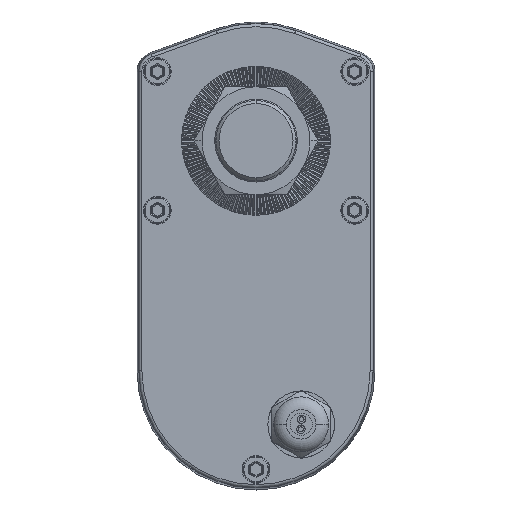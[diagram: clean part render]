
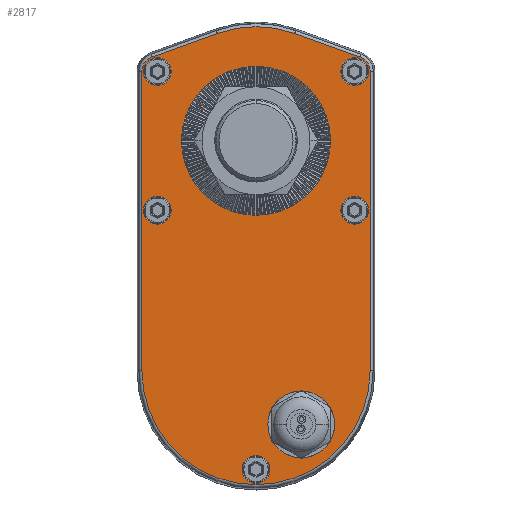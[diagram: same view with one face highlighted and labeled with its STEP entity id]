
A CAD part, top view. The second image highlights one B-rep face of the part: STEP entity #2817.
In plain terms, the highlighted planar face has unit normal (0, 0, 1).
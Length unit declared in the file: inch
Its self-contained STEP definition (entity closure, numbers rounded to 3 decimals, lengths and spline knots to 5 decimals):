
#2817=ADVANCED_FACE('NONE',(#5691,#5692,#5693,#5694,#5695,#5696,#5697,#5698),#5699,.F.);
#5691=FACE_OUTER_BOUND('',#10315,.T.);
#5692=FACE_BOUND('',#10316,.T.);
#5693=FACE_BOUND('',#10317,.T.);
#5694=FACE_BOUND('',#10318,.T.);
#5695=FACE_BOUND('',#10319,.T.);
#5696=FACE_BOUND('',#10320,.T.);
#5697=FACE_BOUND('',#10321,.T.);
#5698=FACE_BOUND('',#10322,.T.);
#5699=PLANE('',#10323);
#10315=EDGE_LOOP('',(#18920,#18921,#18922,#18923,#18924,#18925,#18926,#18927));
#10316=EDGE_LOOP('',(#18928,#18929));
#10317=EDGE_LOOP('',(#18930,#18931));
#10318=EDGE_LOOP('',(#18932,#18933));
#10319=EDGE_LOOP('',(#18934,#18935));
#10320=EDGE_LOOP('',(#18936,#18937));
#10321=EDGE_LOOP('',(#18938,#18939));
#10322=EDGE_LOOP('',(#18940,#18941));
#10323=AXIS2_PLACEMENT_3D('',#18942,#18943,#18944);
#18920=ORIENTED_EDGE('',*,*,#21486,.T.);
#18921=ORIENTED_EDGE('',*,*,#22148,.T.);
#18922=ORIENTED_EDGE('',*,*,#22478,.T.);
#18923=ORIENTED_EDGE('',*,*,#19714,.T.);
#18924=ORIENTED_EDGE('',*,*,#20204,.T.);
#18925=ORIENTED_EDGE('',*,*,#22178,.T.);
#18926=ORIENTED_EDGE('',*,*,#22504,.T.);
#18927=ORIENTED_EDGE('',*,*,#22198,.T.);
#18928=ORIENTED_EDGE('',*,*,#21497,.F.);
#18929=ORIENTED_EDGE('',*,*,#19630,.F.);
#18930=ORIENTED_EDGE('',*,*,#19308,.F.);
#18931=ORIENTED_EDGE('',*,*,#22545,.F.);
#18932=ORIENTED_EDGE('',*,*,#22244,.F.);
#18933=ORIENTED_EDGE('',*,*,#22355,.F.);
#18934=ORIENTED_EDGE('',*,*,#19292,.F.);
#18935=ORIENTED_EDGE('',*,*,#22345,.F.);
#18936=ORIENTED_EDGE('',*,*,#22215,.F.);
#18937=ORIENTED_EDGE('',*,*,#20123,.F.);
#18938=ORIENTED_EDGE('',*,*,#22127,.F.);
#18939=ORIENTED_EDGE('',*,*,#22033,.F.);
#18940=ORIENTED_EDGE('',*,*,#22193,.F.);
#18941=ORIENTED_EDGE('',*,*,#20438,.F.);
#18942=CARTESIAN_POINT('',(-1.35027,1.85595,14.90945));
#18943=DIRECTION('',(0.0,0.0,-1.0));
#18944=DIRECTION('',(0.0,-1.0,0.0));
#19292=EDGE_CURVE('NONE',#22761,#22764,#22765,.T.);
#19308=EDGE_CURVE('NONE',#22790,#22793,#22794,.T.);
#19630=EDGE_CURVE('NONE',#23395,#23063,#23397,.T.);
#19714=EDGE_CURVE('NONE',#23544,#23542,#23545,.T.);
#20123=EDGE_CURVE('NONE',#24252,#24255,#24256,.T.);
#20204=EDGE_CURVE('NONE',#23542,#24388,#24390,.T.);
#20438=EDGE_CURVE('NONE',#24748,#24746,#24750,.T.);
#21486=EDGE_CURVE('NONE',#26238,#26240,#26242,.T.);
#21497=EDGE_CURVE('NONE',#23063,#23395,#26256,.T.);
#22033=EDGE_CURVE('NONE',#26929,#26932,#26933,.T.);
#22127=EDGE_CURVE('NONE',#26932,#26929,#27034,.T.);
#22148=EDGE_CURVE('NONE',#26240,#27055,#27057,.T.);
#22178=EDGE_CURVE('NONE',#24388,#27091,#27093,.T.);
#22193=EDGE_CURVE('NONE',#24746,#24748,#27109,.T.);
#22198=EDGE_CURVE('NONE',#27112,#26238,#27116,.T.);
#22215=EDGE_CURVE('NONE',#24255,#24252,#27135,.T.);
#22244=EDGE_CURVE('NONE',#27165,#27167,#27168,.T.);
#22345=EDGE_CURVE('NONE',#22764,#22761,#27273,.T.);
#22355=EDGE_CURVE('NONE',#27167,#27165,#27283,.T.);
#22478=EDGE_CURVE('NONE',#27055,#23544,#27409,.T.);
#22504=EDGE_CURVE('NONE',#27091,#27112,#27435,.T.);
#22545=EDGE_CURVE('NONE',#22793,#22790,#27476,.T.);
#22761=VERTEX_POINT('NONE',#27924);
#22764=VERTEX_POINT('',#27928);
#22765=CIRCLE('',#27929,0.17717);
#22790=VERTEX_POINT('NONE',#27980);
#22793=VERTEX_POINT('',#27984);
#22794=CIRCLE('',#27985,0.17717);
#23063=VERTEX_POINT('NONE',#28573);
#23395=VERTEX_POINT('',#30036);
#23397=CIRCLE('',#30039,0.94882);
#23542=VERTEX_POINT('NONE',#30439);
#23544=VERTEX_POINT('NONE',#30441);
#23545=CIRCLE('',#30442,0.19754);
#24252=VERTEX_POINT('',#32700);
#24255=VERTEX_POINT('NONE',#32704);
#24256=CIRCLE('',#32705,0.17717);
#24388=VERTEX_POINT('NONE',#33045);
#24390=LINE('',#33047,#33048);
#24746=VERTEX_POINT('NONE',#33787);
#24748=VERTEX_POINT('',#33790);
#24750=CIRCLE('',#33793,0.31004);
#26238=VERTEX_POINT('NONE',#37976);
#26240=VERTEX_POINT('NONE',#37978);
#26242=LINE('',#37980,#37981);
#26256=CIRCLE('',#38009,0.94882);
#26929=VERTEX_POINT('',#39762);
#26932=VERTEX_POINT('NONE',#39766);
#26933=CIRCLE('',#39767,0.17717);
#27034=CIRCLE('',#39929,0.17717);
#27055=VERTEX_POINT('NONE',#39966);
#27057=CIRCLE('',#39968,1.45718);
#27091=VERTEX_POINT('NONE',#40022);
#27093=CIRCLE('',#40024,1.45738);
#27109=CIRCLE('',#40071,0.31004);
#27112=VERTEX_POINT('NONE',#40074);
#27116=CIRCLE('',#40078,0.19754);
#27135=CIRCLE('',#40104,0.17717);
#27165=VERTEX_POINT('NONE',#40187);
#27167=VERTEX_POINT('',#40190);
#27168=CIRCLE('',#40191,0.17717);
#27273=CIRCLE('',#40382,0.17717);
#27283=CIRCLE('',#40395,0.17717);
#27409=LINE('',#40655,#40656);
#27435=LINE('',#40683,#40684);
#27476=CIRCLE('',#40731,0.17717);
#27924=CARTESIAN_POINT('',(-1.17311,-2.33854,14.90945));
#27928=CARTESIAN_POINT('',(-1.52744,-2.33854,14.90945));
#27929=AXIS2_PLACEMENT_3D('',#40891,#40892,#40893);
#27980=CARTESIAN_POINT('',(-2.43295,2.7402,14.90945));
#27984=CARTESIAN_POINT('',(-2.78728,2.7402,14.90945));
#27985=AXIS2_PLACEMENT_3D('',#40910,#40911,#40912);
#28573=CARTESIAN_POINT('',(-2.29909,1.85595,14.90945));
#30036=CARTESIAN_POINT('',(-0.40145,1.85595,14.90945));
#30039=AXIS2_PLACEMENT_3D('',#41240,#41241,#41242);
#30439=CARTESIAN_POINT('',(-0.02347,2.92597,14.90945));
#30441=CARTESIAN_POINT('',(0.10691,2.7402,14.90945));
#30442=AXIS2_PLACEMENT_3D('',#41322,#41323,#41324);
#32700=CARTESIAN_POINT('',(0.08673,0.96855,14.90945));
#32704=CARTESIAN_POINT('',(-0.2676,0.96855,14.90945));
#32705=AXIS2_PLACEMENT_3D('',#41669,#41670,#41671);
#33045=CARTESIAN_POINT('',(-0.85478,3.22651,14.90945));
#33047=CARTESIAN_POINT('',(-0.85478,3.22651,14.90945));
#33048=VECTOR('',#41765,39.37008);
#33787=CARTESIAN_POINT('',(-1.0833,-1.76476,14.90945));
#33790=CARTESIAN_POINT('',(-0.46323,-1.76476,14.90945));
#33793=AXIS2_PLACEMENT_3D('',#42011,#42012,#42013);
#37976=CARTESIAN_POINT('',(-2.80745,2.7402,14.90945));
#37978=CARTESIAN_POINT('',(-2.80745,-1.07693,14.90945));
#37980=CARTESIAN_POINT('',(-2.80745,-1.07693,14.90945));
#37981=VECTOR('',#42977,39.37008);
#38009=AXIS2_PLACEMENT_3D('',#42985,#42986,#42987);
#39762=CARTESIAN_POINT('',(0.08673,2.7402,14.90945));
#39766=CARTESIAN_POINT('',(-0.2676,2.7402,14.90945));
#39767=AXIS2_PLACEMENT_3D('',#43462,#43463,#43464);
#39929=AXIS2_PLACEMENT_3D('',#43543,#43544,#43545);
#39966=CARTESIAN_POINT('',(0.10691,-1.07693,14.90945));
#39968=AXIS2_PLACEMENT_3D('',#43564,#43565,#43566);
#40022=CARTESIAN_POINT('',(-1.84577,3.22651,14.90945));
#40024=AXIS2_PLACEMENT_3D('',#43593,#43594,#43595);
#40071=AXIS2_PLACEMENT_3D('',#43600,#43601,#43602);
#40074=CARTESIAN_POINT('',(-2.67708,2.92597,14.90945));
#40078=AXIS2_PLACEMENT_3D('',#43609,#43610,#43611);
#40104=AXIS2_PLACEMENT_3D('',#43622,#43623,#43624);
#40187=CARTESIAN_POINT('',(-2.43295,0.96855,14.90945));
#40190=CARTESIAN_POINT('',(-2.78728,0.96855,14.90945));
#40191=AXIS2_PLACEMENT_3D('',#43641,#43642,#43643);
#40382=AXIS2_PLACEMENT_3D('',#43699,#43700,#43701);
#40395=AXIS2_PLACEMENT_3D('',#43705,#43706,#43707);
#40655=CARTESIAN_POINT('',(0.10691,2.7402,14.90945));
#40656=VECTOR('',#43750,39.37008);
#40683=CARTESIAN_POINT('',(-2.67708,2.92597,14.90945));
#40684=VECTOR('',#43755,39.37008);
#40731=AXIS2_PLACEMENT_3D('',#43766,#43767,#43768);
#40891=CARTESIAN_POINT('',(-1.35027,-2.33854,14.90945));
#40892=DIRECTION('',(0.0,0.0,1.0));
#40893=DIRECTION('',(1.0,0.0,0.0));
#40910=CARTESIAN_POINT('',(-2.61012,2.7402,14.90945));
#40911=DIRECTION('',(0.0,0.0,1.0));
#40912=DIRECTION('',(1.0,0.0,0.0));
#41240=CARTESIAN_POINT('',(-1.35027,1.85595,14.90945));
#41241=DIRECTION('',(0.0,0.0,1.0));
#41242=DIRECTION('',(-1.0,0.0,0.0));
#41322=CARTESIAN_POINT('',(-0.09063,2.7402,14.90945));
#41323=DIRECTION('',(0.0,0.0,1.0));
#41324=DIRECTION('',(-1.0,0.,0.0));
#41669=CARTESIAN_POINT('',(-0.09043,0.96855,14.90945));
#41670=DIRECTION('',(0.0,0.0,1.0));
#41671=DIRECTION('',(-1.0,0.0,0.0));
#41765=DIRECTION('',(-0.94,0.34,0.0));
#42011=CARTESIAN_POINT('',(-0.77327,-1.76476,14.90945));
#42012=DIRECTION('',(0.0,0.0,1.0));
#42013=DIRECTION('',(-1.0,0.0,0.0));
#42977=DIRECTION('',(0.,-1.0,-0.0));
#42985=CARTESIAN_POINT('',(-1.35027,1.85595,14.90945));
#42986=DIRECTION('',(0.0,0.0,1.0));
#42987=DIRECTION('',(-1.0,0.0,0.0));
#43462=CARTESIAN_POINT('',(-0.09043,2.7402,14.90945));
#43463=DIRECTION('',(0.0,0.0,1.0));
#43464=DIRECTION('',(-1.0,0.0,0.0));
#43543=CARTESIAN_POINT('',(-0.09043,2.7402,14.90945));
#43544=DIRECTION('',(0.0,0.0,1.0));
#43545=DIRECTION('',(-1.0,0.0,0.0));
#43564=CARTESIAN_POINT('',(-1.35027,-1.07693,14.90945));
#43565=DIRECTION('',(0.0,0.0,1.0));
#43566=DIRECTION('',(-1.0,0.0,0.0));
#43593=CARTESIAN_POINT('',(-1.35027,1.85595,14.90945));
#43594=DIRECTION('',(0.0,0.0,1.0));
#43595=DIRECTION('',(-1.0,0.,0.0));
#43600=CARTESIAN_POINT('',(-0.77327,-1.76476,14.90945));
#43601=DIRECTION('',(0.0,0.0,1.0));
#43602=DIRECTION('',(-1.0,0.0,0.0));
#43609=CARTESIAN_POINT('',(-2.60992,2.7402,14.90945));
#43610=DIRECTION('',(0.0,0.0,1.0));
#43611=DIRECTION('',(-1.0,0.0,0.0));
#43622=CARTESIAN_POINT('',(-0.09043,0.96855,14.90945));
#43623=DIRECTION('',(0.0,0.0,1.0));
#43624=DIRECTION('',(-1.0,0.0,0.0));
#43641=CARTESIAN_POINT('',(-2.61012,0.96855,14.90945));
#43642=DIRECTION('',(0.0,0.0,1.0));
#43643=DIRECTION('',(1.0,0.0,0.0));
#43699=CARTESIAN_POINT('',(-1.35027,-2.33854,14.90945));
#43700=DIRECTION('',(0.0,0.0,1.0));
#43701=DIRECTION('',(1.0,0.0,0.0));
#43705=CARTESIAN_POINT('',(-2.61012,0.96855,14.90945));
#43706=DIRECTION('',(0.0,0.0,1.0));
#43707=DIRECTION('',(1.0,0.0,0.0));
#43750=DIRECTION('',(0.,1.0,0.0));
#43755=DIRECTION('',(-0.94,-0.34,-0.0));
#43766=CARTESIAN_POINT('',(-2.61012,2.7402,14.90945));
#43767=DIRECTION('',(0.0,0.0,1.0));
#43768=DIRECTION('',(1.0,0.0,0.0));
